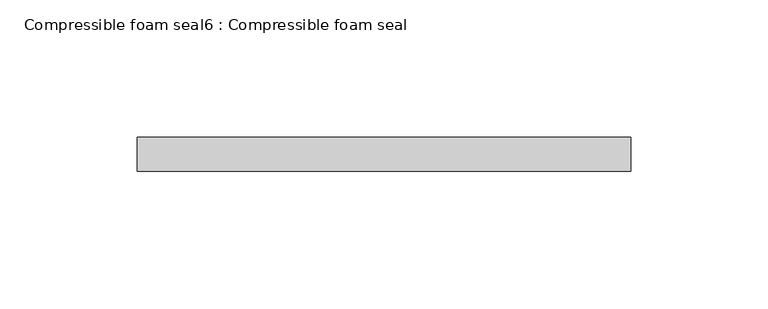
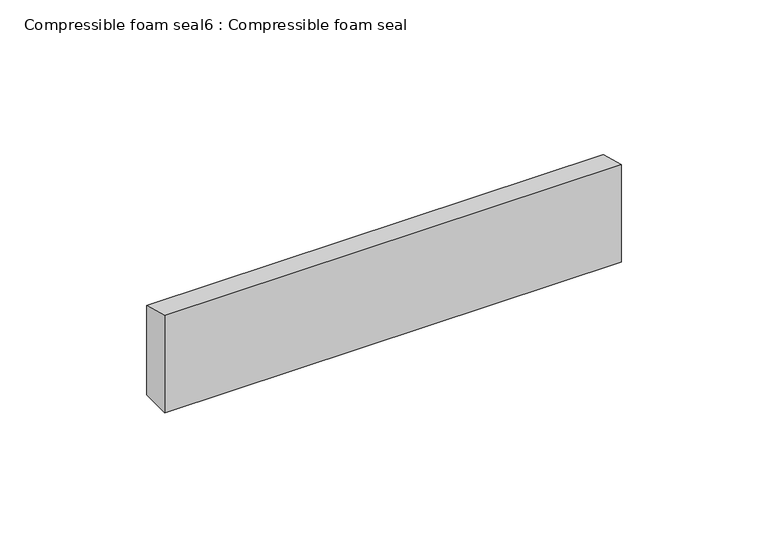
"""IFC4 building model written with IfcOpenShell, lengths in millimetres: proxy geometry, Compressible foam seal6 : Compressible foam seal."""

from ifc_helpers import new_model, si_unit, frame, origin, place, context, project, spatial, polyline, outline, extrude, source, transform, mapped, element, save


def compressible_foam_seal6_compressible_foam_seal_03053069(model_context):
    return source(origin(), model_context, "Body", "SweptSolid", [
        extrude(outline(polyline([(-20608.5148363, -343.5448265), (-20596.1136752, -346.8677076), (-20596.1136752, -384.0410003), (-20608.5148363, -384.0410003), (-20608.5148363, -343.5448265)])), frame((17024.8733982, 0.0, 0.0), z_axis=(1.0, 0.0, 0.0), x_axis=(0.0, 1.0, 0.0)), (0.0, 0.0, 1.0), 179.5239223),
    ])


if __name__ == "__main__":
    model = new_model("IFC4")
    model_context = context("Model", 3, world=origin())
    ifc_project = project(units=[si_unit("LENGTHUNIT", "METRE", prefix="MILLI")], contexts=[model_context])
    site = spatial("IfcSite", under=ifc_project)
    building = spatial("IfcBuilding", under=site)
    placement = place(None, origin())
    compressible_foam_seal6_compressible_foam_seal_shape = compressible_foam_seal6_compressible_foam_seal_03053069(model_context)
    element("IfcBuildingElementProxy", 1, Name="Compressible foam seal6 : Compressible foam seal", ObjectType="Compressible foam seal6 : Compressible foam seal", at=placement, inside=building, context=model_context, shape_type="MappedRepresentation", body=[
        mapped(compressible_foam_seal6_compressible_foam_seal_shape, transform((0.0, 0.0, 0.0), x_axis=(1.0, 0.0, 0.0), y_axis=(0.0, 1.0, 0.0), z_axis=(0.0, 0.0, 1.0))),
    ])
    save(model, "model.ifc")
